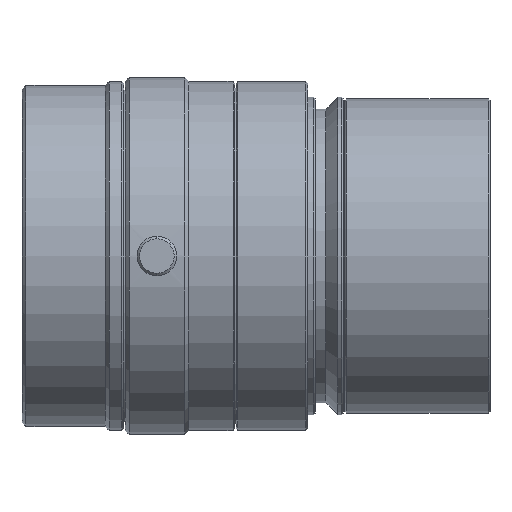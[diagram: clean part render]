
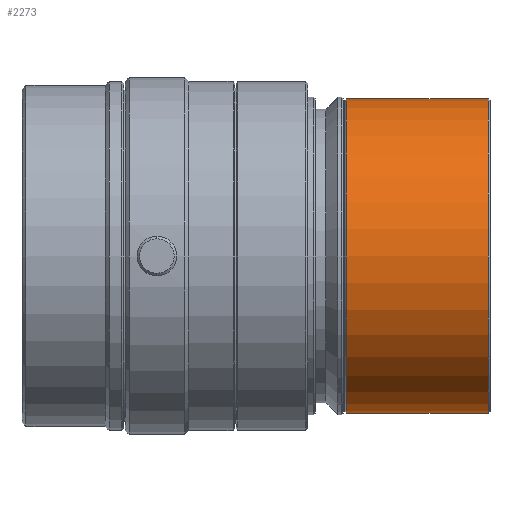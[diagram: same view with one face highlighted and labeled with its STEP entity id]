
A CAD part, front view. The second image highlights one B-rep face of the part: STEP entity #2273.
In plain terms, the highlighted cylindrical face has radius 19.8 mm (diameter 39.6 mm), a partial arc.
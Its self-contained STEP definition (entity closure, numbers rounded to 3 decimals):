
#107 = VECTOR ( 'NONE', #220, 1000. ) ;
#123 = DIRECTION ( 'NONE',  ( 1., 0., 0. ) ) ;
#128 = DIRECTION ( 'NONE',  ( 1., 0., 0. ) ) ;
#131 = CYLINDRICAL_SURFACE ( 'NONE', #1156, 19.8 ) ;
#179 = LINE ( 'NONE', #1170, #107 ) ;
#189 = VERTEX_POINT ( 'NONE', #2257 ) ;
#220 = DIRECTION ( 'NONE',  ( 1., 0., 0. ) ) ;
#364 = DIRECTION ( 'NONE',  ( 0., 0., -1. ) ) ;
#460 = VERTEX_POINT ( 'NONE', #1282 ) ;
#472 = VERTEX_POINT ( 'NONE', #2952 ) ;
#521 = DIRECTION ( 'NONE',  ( 1., 0., 0. ) ) ;
#528 = AXIS2_PLACEMENT_3D ( 'NONE', #2205, #521, #1957 ) ;
#541 = EDGE_CURVE ( 'NONE', #2895, #460, #623, .T. ) ;
#623 = CIRCLE ( 'NONE', #528, 19.8 ) ;
#736 = ORIENTED_EDGE ( 'NONE', *, *, #1883, .F. ) ;
#826 = FACE_OUTER_BOUND ( 'NONE', #1222, .T. ) ;
#997 = DIRECTION ( 'NONE',  ( 1., 0., 0. ) ) ;
#1129 = EDGE_CURVE ( 'NONE', #460, #189, #2459, .T. ) ;
#1156 = AXIS2_PLACEMENT_3D ( 'NONE', #2517, #128, #364 ) ;
#1170 = CARTESIAN_POINT ( 'NONE',  ( 58.238, -0.002, 19.8 ) ) ;
#1182 = ORIENTED_EDGE ( 'NONE', *, *, #1752, .F. ) ;
#1222 = EDGE_LOOP ( 'NONE', ( #1182, #2484, #2878, #736 ) ) ;
#1282 = CARTESIAN_POINT ( 'NONE',  ( 40.959, -0.002, -19.8 ) ) ;
#1326 = AXIS2_PLACEMENT_3D ( 'NONE', #2430, #997, #2662 ) ;
#1664 = VECTOR ( 'NONE', #123, 1000. ) ;
#1752 = EDGE_CURVE ( 'NONE', #2895, #472, #179, .T. ) ;
#1883 = EDGE_CURVE ( 'NONE', #472, #189, #2268, .T. ) ;
#1957 = DIRECTION ( 'NONE',  ( 0., 0., -1. ) ) ;
#2025 = CARTESIAN_POINT ( 'NONE',  ( 58.238, -0.002, -19.8 ) ) ;
#2146 = CARTESIAN_POINT ( 'NONE',  ( 40.959, -0.002, 19.8 ) ) ;
#2205 = CARTESIAN_POINT ( 'NONE',  ( 40.959, -0.002, 0. ) ) ;
#2257 = CARTESIAN_POINT ( 'NONE',  ( 58.859, -0.002, -19.8 ) ) ;
#2268 = CIRCLE ( 'NONE', #1326, 19.8 ) ;
#2273 = ADVANCED_FACE ( 'NONE', ( #826 ), #131, .T. ) ;
#2430 = CARTESIAN_POINT ( 'NONE',  ( 58.859, -0.002, 0. ) ) ;
#2459 = LINE ( 'NONE', #2025, #1664 ) ;
#2484 = ORIENTED_EDGE ( 'NONE', *, *, #541, .T. ) ;
#2517 = CARTESIAN_POINT ( 'NONE',  ( 58.238, -0.002, 0. ) ) ;
#2662 = DIRECTION ( 'NONE',  ( 0., 0., -1. ) ) ;
#2878 = ORIENTED_EDGE ( 'NONE', *, *, #1129, .T. ) ;
#2895 = VERTEX_POINT ( 'NONE', #2146 ) ;
#2952 = CARTESIAN_POINT ( 'NONE',  ( 58.859, -0.002, 19.8 ) ) ;
